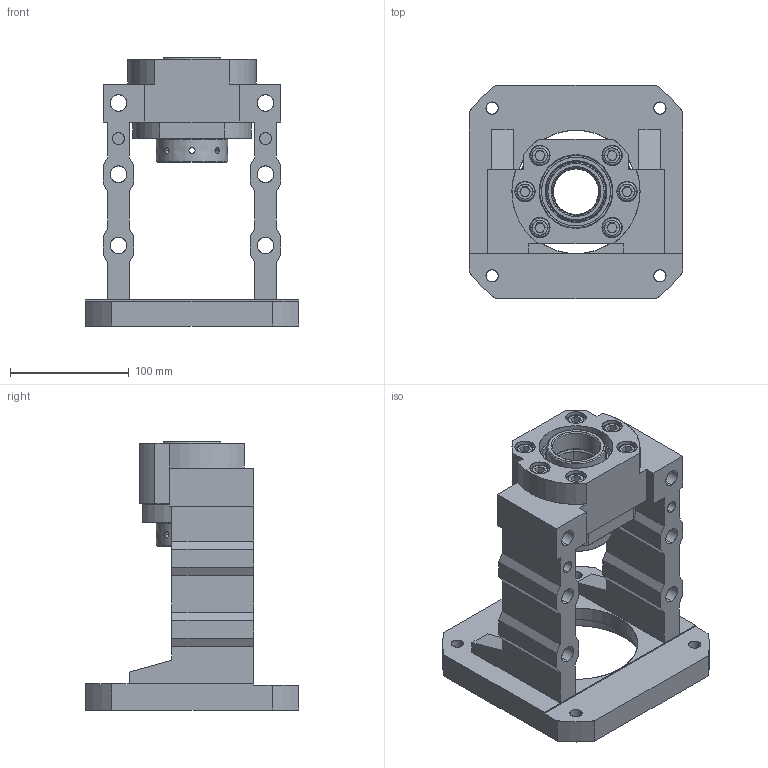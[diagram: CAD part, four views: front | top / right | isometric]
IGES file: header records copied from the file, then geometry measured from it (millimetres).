
Start section: SolidWorks IGES file using analytic representation for surfaces
Bounding box: 180 x 180 x 226 mm (x, y, z)
Surface area: 237114.8 mm2 (no closed solid volume)
Topology: 0 solids, 0 shells, 344 faces, 6326 edges, 6318 vertices
Faces by surface type: revolution 182, bspline 162
